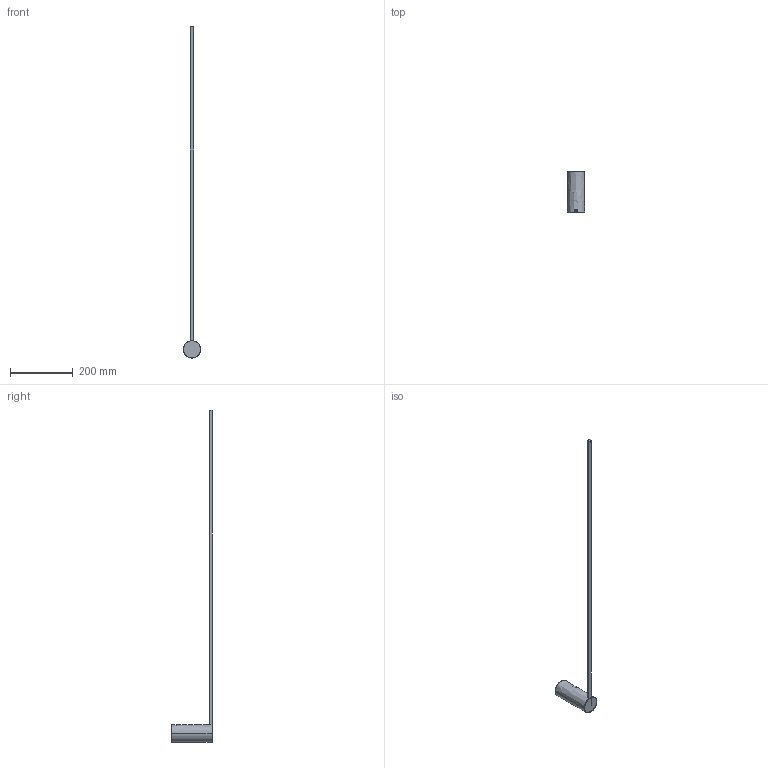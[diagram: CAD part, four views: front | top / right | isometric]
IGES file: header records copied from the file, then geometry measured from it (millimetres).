
Start section: SolidWorks IGES file using analytic representation for surfaces
Global section: file name: C:\Users\anna.bielnik\Desktop\modele 3D tymczasowe\ARM-LED\ARM-LED-L\ARM L PM\ARM LED L 105.IGS; native system: SolidWorks 2023; preprocessor: SolidWorks 2023; author: anna.bielnik; date: 230621.104723; units: millimetre
Bounding box: 55 x 132 x 1055.5 mm (x, y, z)
Surface area: 130643.4 mm2 (no closed solid volume)
Topology: 0 solids, 0 shells, 52 faces, 612 edges, 612 vertices
Faces by surface type: bspline 46, revolution 6
